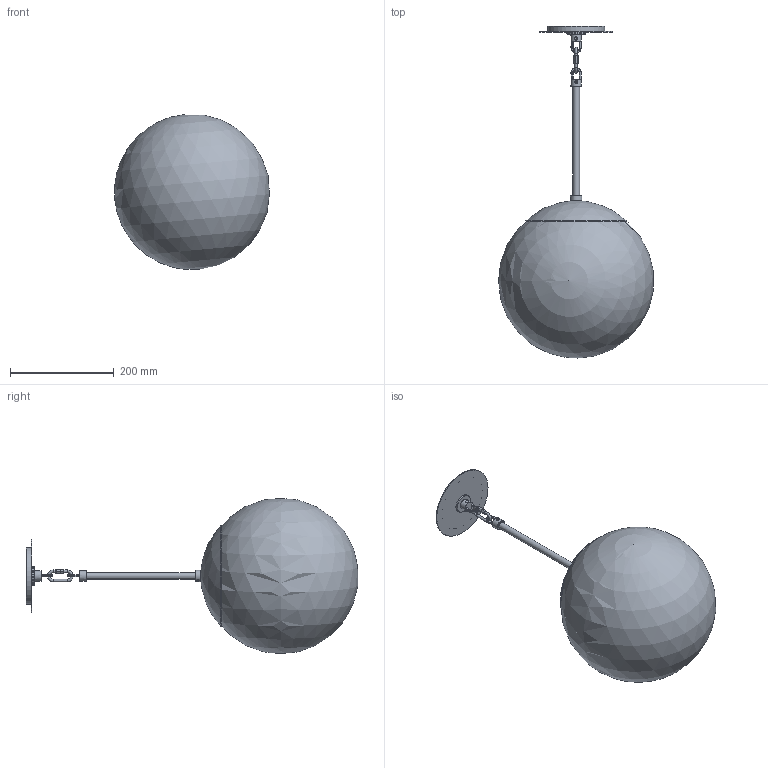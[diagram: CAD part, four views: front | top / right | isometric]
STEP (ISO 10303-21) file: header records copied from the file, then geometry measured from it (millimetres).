
FILE_DESCRIPTION(/* description */ (''),/* implementation_level */ '2;1');
FILE_NAME(/* name */ '240911_B_B715.stp',/* time_stamp */ '2024-09-11T13:55:56+02:00',/* author */ ('Lukasz'),/* organization */ (''),/* preprocessor_version */ 'ST-DEVELOPER v20',/* originating_system */ 'Autodesk Inventor 2024',/* authorisation */ '');
FILE_SCHEMA (('AUTOMOTIVE_DESIGN { 1 0 10303 214 3 1 1 }'));
Length unit declared in the file: millimetre
Products named in the file (1): 240911_B_B715 jako część
Bounding box: 298.36 x 640.19 x 298.85 mm (x, y, z)
Volume: 14241055.4 mm3; surface area: 427433 mm2
Topology: 14 solids, 15 shells, 131 faces, 291 edges, 186 vertices
Faces by surface type: plane 56, cylinder 37, cone 19, torus 10, sphere 5, bspline 4
Full cylindrical faces by diameter (mm): 5 x5, 6 x2, 13 x1, 14.9 x1, 16 x1, 16.2 x1, 20 x2, 22 x2, 34.5 x1, 36 x1, 110 x1, 140 x1
Entity records: 4272 total; most frequent: CARTESIAN_POINT 1058, DIRECTION 668, ORIENTED_EDGE 574, EDGE_CURVE 287, AXIS2_PLACEMENT_3D 273, VERTEX_POINT 186, CIRCLE 145, STYLED_ITEM 145
